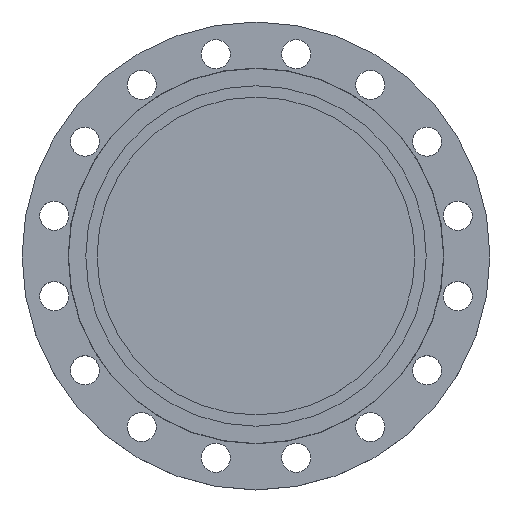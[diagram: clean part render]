
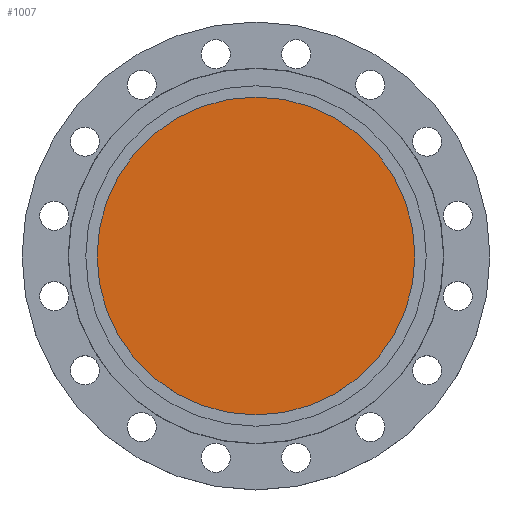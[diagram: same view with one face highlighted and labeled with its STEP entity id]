
A CAD part, top view. The second image highlights one B-rep face of the part: STEP entity #1007.
In plain terms, the highlighted planar face has unit normal (0, 0, 1).
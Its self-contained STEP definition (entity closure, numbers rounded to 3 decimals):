
#126 = CIRCLE ( 'NONE', #127, 197. ) ;
#127 = AXIS2_PLACEMENT_3D ( 'NONE', #546, #545, #544 ) ;
#373 = CARTESIAN_POINT ( 'NONE',  ( 197., 0., 0. ) ) ;
#544 = DIRECTION ( 'NONE',  ( -1., 0., 0. ) ) ;
#545 = DIRECTION ( 'NONE',  ( 0., 0., -1. ) ) ;
#546 = CARTESIAN_POINT ( 'NONE',  ( 0., 0., 0. ) ) ;
#560 = AXIS2_PLACEMENT_3D ( 'NONE', #668, #667, #666 ) ;
#666 = DIRECTION ( 'NONE',  ( 1., 0., 0. ) ) ;
#667 = DIRECTION ( 'NONE',  ( 0., 0., 1. ) ) ;
#668 = CARTESIAN_POINT ( 'NONE',  ( 0., 0., 0. ) ) ;
#669 = PLANE ( 'NONE',  #560 ) ;
#671 = FACE_OUTER_BOUND ( 'NONE', #1214, .T. ) ;
#747 = DIRECTION ( 'NONE',  ( -1., 0., 0. ) ) ;
#750 = DIRECTION ( 'NONE',  ( 0., 0., -1. ) ) ;
#751 = CARTESIAN_POINT ( 'NONE',  ( 0., 0., 0. ) ) ;
#826 = CARTESIAN_POINT ( 'NONE',  ( -197., 0., 0. ) ) ;
#835 = EDGE_CURVE ( 'NONE', #1718, #1358, #1494, .T. ) ;
#1007 = ADVANCED_FACE ( 'NONE', ( #671 ), #669, .T. ) ;
#1179 = EDGE_CURVE ( 'NONE', #1358, #1718, #126, .T. ) ;
#1214 = EDGE_LOOP ( 'NONE', ( #1294, #1300 ) ) ;
#1294 = ORIENTED_EDGE ( 'NONE', *, *, #835, .F. ) ;
#1300 = ORIENTED_EDGE ( 'NONE', *, *, #1179, .F. ) ;
#1358 = VERTEX_POINT ( 'NONE', #373 ) ;
#1465 = AXIS2_PLACEMENT_3D ( 'NONE', #751, #750, #747 ) ;
#1494 = CIRCLE ( 'NONE', #1465, 197. ) ;
#1718 = VERTEX_POINT ( 'NONE', #826 ) ;
